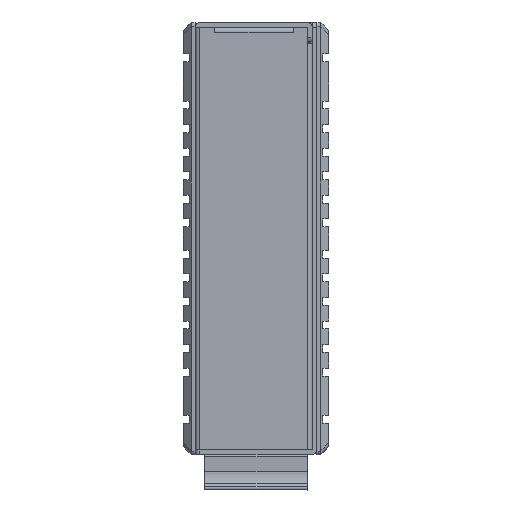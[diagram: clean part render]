
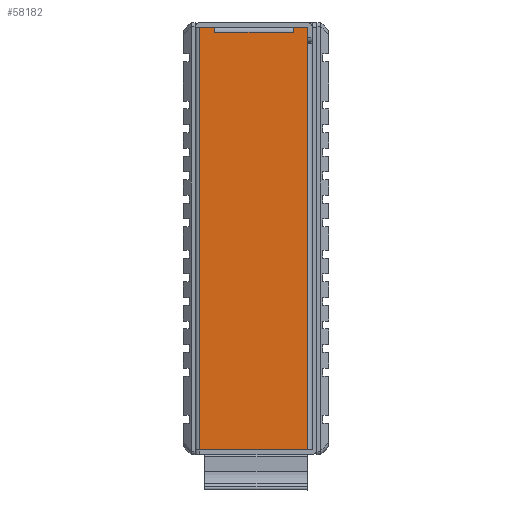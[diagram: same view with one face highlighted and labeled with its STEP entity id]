
A CAD part, front view. The second image highlights one B-rep face of the part: STEP entity #58182.
In plain terms, the highlighted planar face has unit normal (0, -1, 0).
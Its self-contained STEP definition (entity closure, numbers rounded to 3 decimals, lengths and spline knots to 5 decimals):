
#5372=LINE('',#111198,#11651);
#5375=LINE('',#111207,#11654);
#5379=LINE('',#111216,#11658);
#5382=LINE('',#111222,#11661);
#5384=LINE('',#111225,#11663);
#5508=LINE('',#111600,#11787);
#5511=LINE('',#111609,#11790);
#5514=LINE('',#111620,#11793);
#5540=LINE('',#111707,#11819);
#5543=LINE('',#111712,#11822);
#5553=LINE('',#111754,#11832);
#5554=LINE('',#111756,#11833);
#11651=VECTOR('',#75479,1.);
#11654=VECTOR('',#75488,1.);
#11658=VECTOR('',#75494,1.);
#11661=VECTOR('',#75499,1.);
#11663=VECTOR('',#75503,1.);
#11787=VECTOR('',#75863,1.);
#11790=VECTOR('',#75870,1.);
#11793=VECTOR('',#75879,1.);
#11819=VECTOR('',#75963,1.);
#11822=VECTOR('',#75968,1.);
#11832=VECTOR('',#76014,1.);
#11833=VECTOR('',#76017,1.);
#28690=ORIENTED_EDGE('',*,*,#38053,.F.);
#28691=ORIENTED_EDGE('',*,*,#38058,.F.);
#28692=ORIENTED_EDGE('',*,*,#38045,.F.);
#28693=ORIENTED_EDGE('',*,*,#38056,.F.);
#28694=ORIENTED_EDGE('',*,*,#38049,.F.);
#28695=ORIENTED_EDGE('',*,*,#38319,.T.);
#28696=ORIENTED_EDGE('',*,*,#38248,.T.);
#28697=ORIENTED_EDGE('',*,*,#38297,.T.);
#28698=ORIENTED_EDGE('',*,*,#38239,.F.);
#28699=ORIENTED_EDGE('',*,*,#38294,.T.);
#28700=ORIENTED_EDGE('',*,*,#38243,.T.);
#28701=ORIENTED_EDGE('',*,*,#38320,.T.);
#38045=EDGE_CURVE('',#44090,#44091,#5372,.T.);
#38049=EDGE_CURVE('',#44093,#44094,#5375,.T.);
#38053=EDGE_CURVE('',#44097,#44098,#5379,.T.);
#38056=EDGE_CURVE('',#44094,#44090,#5382,.T.);
#38058=EDGE_CURVE('',#44091,#44097,#5384,.T.);
#38239=EDGE_CURVE('',#44232,#44233,#5508,.T.);
#38243=EDGE_CURVE('',#44237,#44236,#5511,.T.);
#38248=EDGE_CURVE('',#44239,#44241,#5514,.T.);
#38294=EDGE_CURVE('',#44232,#44237,#5540,.T.);
#38297=EDGE_CURVE('',#44241,#44233,#5543,.T.);
#38319=EDGE_CURVE('',#44093,#44239,#5553,.T.);
#38320=EDGE_CURVE('',#44236,#44098,#5554,.T.);
#44090=VERTEX_POINT('',#111195);
#44091=VERTEX_POINT('',#111199);
#44093=VERTEX_POINT('',#111206);
#44094=VERTEX_POINT('',#111208);
#44097=VERTEX_POINT('',#111215);
#44098=VERTEX_POINT('',#111217);
#44232=VERTEX_POINT('',#111599);
#44233=VERTEX_POINT('',#111601);
#44236=VERTEX_POINT('',#111608);
#44237=VERTEX_POINT('',#111610);
#44239=VERTEX_POINT('',#111615);
#44241=VERTEX_POINT('',#111619);
#48794=EDGE_LOOP('',(#28690,#28691,#28692,#28693,#28694,#28695,#28696,#28697,
#28698,#28699,#28700,#28701));
#52607=FACE_BOUND('',#48794,.T.);
#55174=PLANE('',#62779);
#58182=ADVANCED_FACE('',(#52607),#55174,.F.);
#62779=AXIS2_PLACEMENT_3D('',#111759,#76021,#76022);
#75479=DIRECTION('',(1.,0.,0.));
#75488=DIRECTION('',(0.,0.,-1.));
#75494=DIRECTION('',(0.,0.,1.));
#75499=DIRECTION('',(1.,0.,0.));
#75503=DIRECTION('',(1.,0.,0.));
#75863=DIRECTION('',(0.,0.,-1.));
#75870=DIRECTION('',(0.,0.,1.));
#75879=DIRECTION('',(0.,0.,-1.));
#75963=DIRECTION('',(-1.,0.,0.));
#75968=DIRECTION('',(1.,0.,0.));
#76014=DIRECTION('',(-1.,0.,0.));
#76017=DIRECTION('',(-1.,0.,0.));
#76021=DIRECTION('',(0.,1.,0.));
#76022=DIRECTION('',(-1.,0.,0.));
#111195=CARTESIAN_POINT('',(-0.05383,-0.08743,0.05199));
#111198=CARTESIAN_POINT('',(-0.05883,-0.08743,0.05199));
#111199=CARTESIAN_POINT('',(-0.03383,-0.08743,0.05199));
#111206=CARTESIAN_POINT('',(-0.05384,-0.08743,0.05319));
#111207=CARTESIAN_POINT('',(-0.05384,-0.08743,0.0544));
#111208=CARTESIAN_POINT('',(-0.05384,-0.08743,0.05199));
#111215=CARTESIAN_POINT('',(-0.03382,-0.08743,0.05199));
#111216=CARTESIAN_POINT('',(-0.03382,-0.08743,0.0544));
#111217=CARTESIAN_POINT('',(-0.03382,-0.08743,0.05319));
#111222=CARTESIAN_POINT('',(-0.05883,-0.08743,0.05199));
#111225=CARTESIAN_POINT('',(-0.05883,-0.08743,0.05199));
#111599=CARTESIAN_POINT('',(-0.03023,-0.08743,0.04909));
#111600=CARTESIAN_POINT('',(-0.03023,-0.08743,0.0544));
#111601=CARTESIAN_POINT('',(-0.03023,-0.08743,-0.0544));
#111608=CARTESIAN_POINT('',(-0.03024,-0.08743,0.05319));
#111609=CARTESIAN_POINT('',(-0.03024,-0.08743,0.0544));
#111610=CARTESIAN_POINT('',(-0.03024,-0.08743,0.04909));
#111615=CARTESIAN_POINT('',(-0.05763,-0.08743,0.05319));
#111619=CARTESIAN_POINT('',(-0.05763,-0.08743,-0.0544));
#111620=CARTESIAN_POINT('',(-0.05763,-0.08743,0.0544));
#111707=CARTESIAN_POINT('',(-0.05883,-0.08743,0.04909));
#111712=CARTESIAN_POINT('',(-0.05883,-0.08743,-0.0544));
#111754=CARTESIAN_POINT('',(-0.05883,-0.08743,0.05319));
#111756=CARTESIAN_POINT('',(-0.05883,-0.08743,0.05319));
#111759=CARTESIAN_POINT('',(-0.05883,-0.08743,0.0544));
